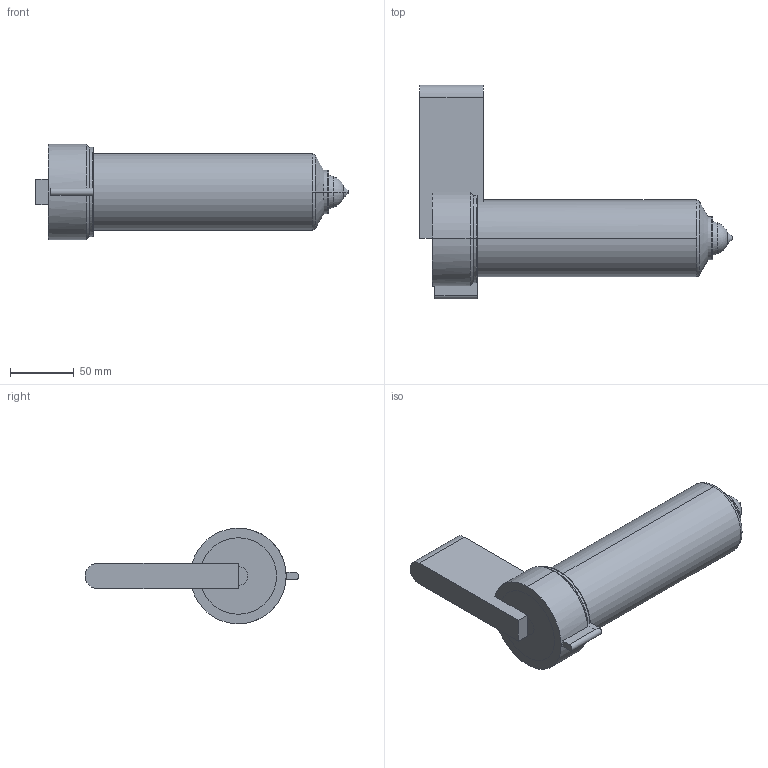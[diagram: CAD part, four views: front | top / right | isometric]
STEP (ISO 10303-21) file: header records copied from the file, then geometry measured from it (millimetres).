
FILE_DESCRIPTION (( 'STEP AP214' ), '1' );
FILE_NAME ('PRS45-233CH-2.0.STEP', '2021-05-31T11:17:56', ( '' ), ( '' ), 'SwSTEP 2.0', 'SolidWorks 2018', '' );
FILE_SCHEMA (( 'AUTOMOTIVE_DESIGN' ));
Length unit declared in the file: millimetre
Products named in the file (5): join^PRS-NOZZLE-8; CC(45)-8; BODY SPRING(45-SPRING)-8; PRS-NOZZLE(PRS45)-8; PRS45-233CH-2.0
Assembly tree (4 placements, depth 2):
  PRS45-233CH-2.0
    PRS-NOZZLE(PRS45)-8
    BODY SPRING(45-SPRING)-8
    CC(45)-8
    join^PRS-NOZZLE-8
Bounding box: 245 x 167.5 x 75 mm (x, y, z)
Volume: 1260737 mm3; surface area: 131085.4 mm2
Topology: 4 solids, 4 shells, 215 faces, 513 edges, 316 vertices
Faces by surface type: cylinder 87, cone 57, plane 39, torus 28, sphere 4
Entity records: 6641 total; most frequent: CARTESIAN_POINT 1286, DIRECTION 1209, ORIENTED_EDGE 1026, AXIS2_PLACEMENT_3D 517, EDGE_CURVE 513, VERTEX_POINT 316, CIRCLE 295, EDGE_LOOP 233
